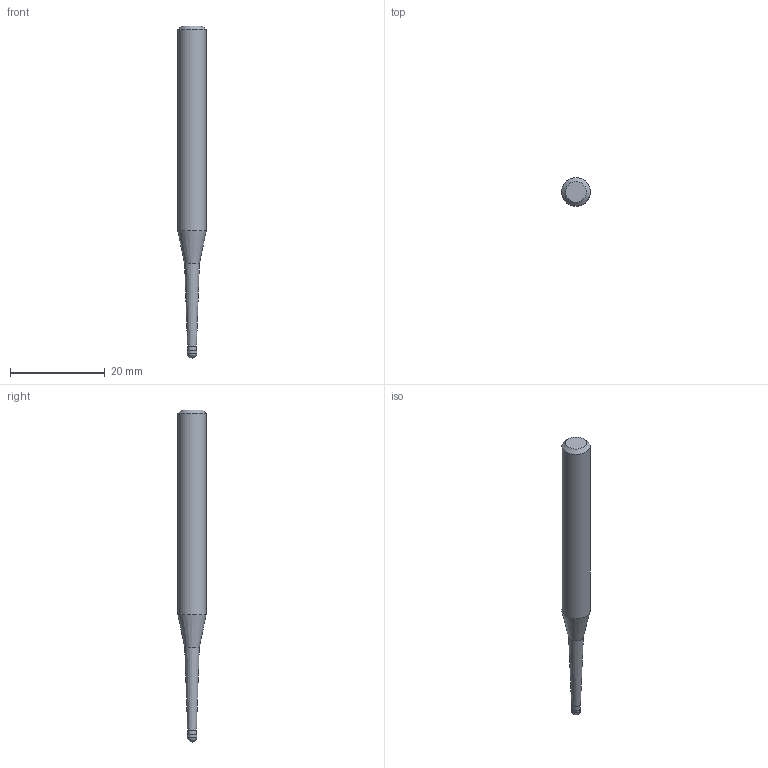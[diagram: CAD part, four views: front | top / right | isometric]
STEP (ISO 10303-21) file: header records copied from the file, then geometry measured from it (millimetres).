
FILE_DESCRIPTION((''),'2;1');
FILE_NAME('C:\Users\nsx150\AppData\Local\Temp\Mastercam 2021\E0ENTZRV18\TEMP.step','2021-09-02T09:57:02',(''),(''),'STEP Write','Mastercam 2021 ... CNC Software, Inc.','');
FILE_SCHEMA(('AUTOMOTIVE_DESIGN'));
Length unit declared in the file: millimetre
Products named in the file (1): None
Bounding box: 6 x 6 x 70 mm (x, y, z)
Volume: 1424.1 mm3; surface area: 1090.7 mm2
Topology: 2 solids, 2 shells, 10 faces, 16 edges, 9 vertices
Faces by surface type: plane 3, cylinder 3, cone 3, sphere 1
Full cylindrical faces by diameter (mm): 1.875 x1, 2 x1, 6 x1
Entity records: 232 total; most frequent: DIRECTION 40, CARTESIAN_POINT 28, AXIS2_PLACEMENT_3D 20, ORIENTED_EDGE 16, EDGE_LOOP 16, STYLED_ITEM 13, ADVANCED_FACE 10, FACE_BOUND 9
